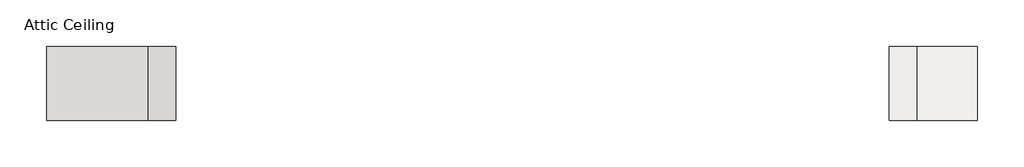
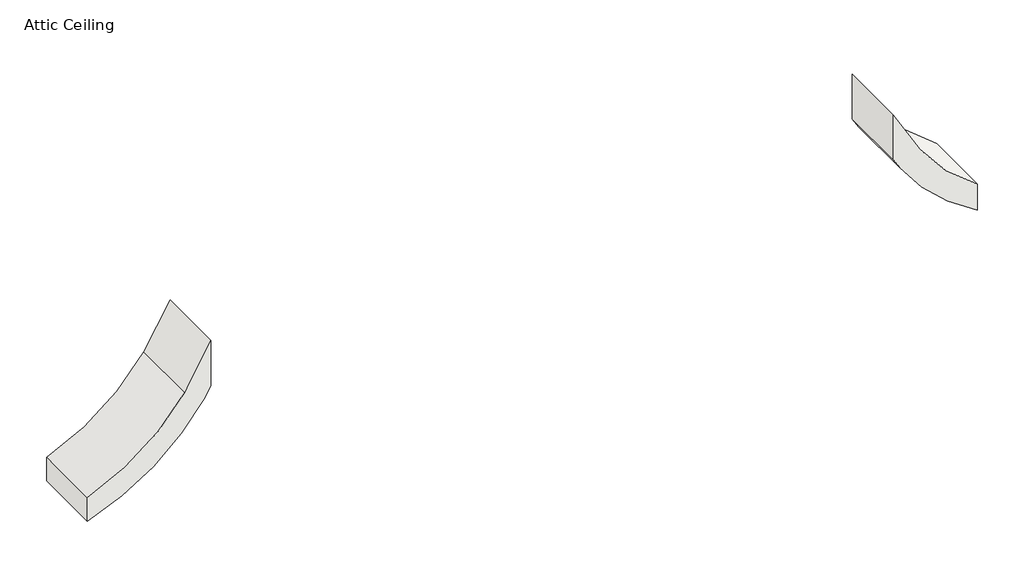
# One storey: 2 roofs.
"""IFC4 building model written with IfcOpenShell, lengths in millimetres."""

from ifc_helpers import new_model, si_unit, point, frame, frame_2d, origin, place, context, project, spatial, polyline, circle_curve, trimmed, segment, composite_curve, outline, extrude, element, save

model = new_model("IFC4")

# Units and contexts
model_context = context("Model", 3, world=origin())
ifc_project = project(units=[si_unit("LENGTHUNIT", "METRE", prefix="MILLI")], contexts=[model_context])

# Site, building, storey
site = spatial("IfcSite", under=ifc_project)
building = spatial("IfcBuilding", under=site)
storey = spatial("IfcBuildingStorey", under=building, Name="Attic Ceiling", Elevation=8026.4)

# Roofs
placement = place(None, origin())
element("IfcRoof", 1, ObjectType="Wood Rafter 184mm - Asphalt Shingles", at=placement, inside=storey, context=model_context, shape_type="SweptSolid", body=[
    extrude(outline(composite_curve([segment(polyline([(4070.3171852, -5718.5031246), (3775.3516386, -5888.8015623)]), True, "CONTINUOUS"), segment(trimmed(circle_curve(frame_2d((4508.1491237, -6984.4731664)), 1318.1382394), [point((3775.3516386, -5888.8015623))], [point((3275.9550219, -6516.3))], True, "CARTESIAN"), True, "CONTINUOUS"), segment(polyline([(3275.9550219, -6516.3), (3114.1273879, -6516.3)]), True, "CONTINUOUS"), segment(trimmed(circle_curve(frame_2d((4508.1491237, -6984.4731664)), 1470.5382394), [point((3114.1273879, -6516.3))], [point((3694.9211642, -5759.2617563))], False, "CARTESIAN"), True, "CONTINUOUS"), segment(polyline([(3694.9211642, -5759.2617563), (3765.5171852, -5718.5031246), (4070.3171852, -5718.5031246)]), True, "CONTINUOUS")], self_intersect=False)), frame((0.0, -1784.35, 0.0), z_axis=(0.0, 1.0, 0.0), x_axis=(0.0, 0.0, 1.0)), (0.0, 0.0, 1.0), 457.2),
])
element("IfcRoof", 2, ObjectType="Wood Rafter 184mm - Asphalt Shingles", at=placement, inside=storey, context=model_context, shape_type="SweptSolid", body=[
    extrude(outline(composite_curve([segment(polyline([(4070.3171852, -1311.6031246), (3765.5171852, -1311.6031246), (3696.0543811, -1271.4987559)]), True, "CONTINUOUS"), segment(trimmed(circle_curve(frame_2d((4509.2823406, -46.2873458)), 1470.5382394), [point((3696.0543811, -1271.4987559))], [point((3228.2690805, -768.428427))], False, "CARTESIAN"), True, "CONTINUOUS"), segment(polyline([(3228.2690805, -768.428427), (3406.5581334, -768.428427)]), True, "CONTINUOUS"), segment(trimmed(circle_curve(frame_2d((4509.2823406, -46.2873458)), 1318.1382394), [point((3406.5581334, -768.428427))], [point((3776.4848555, -1141.95895))], True, "CARTESIAN"), True, "CONTINUOUS"), segment(polyline([(3776.4848555, -1141.95895), (4070.3171852, -1311.6031246)]), True, "CONTINUOUS")], self_intersect=False)), frame((0.0, -1784.35, 0.0), z_axis=(0.0, 1.0, 0.0), x_axis=(0.0, 0.0, 1.0)), (0.0, 0.0, 1.0), 457.2),
])

save(model, "model.ifc")
